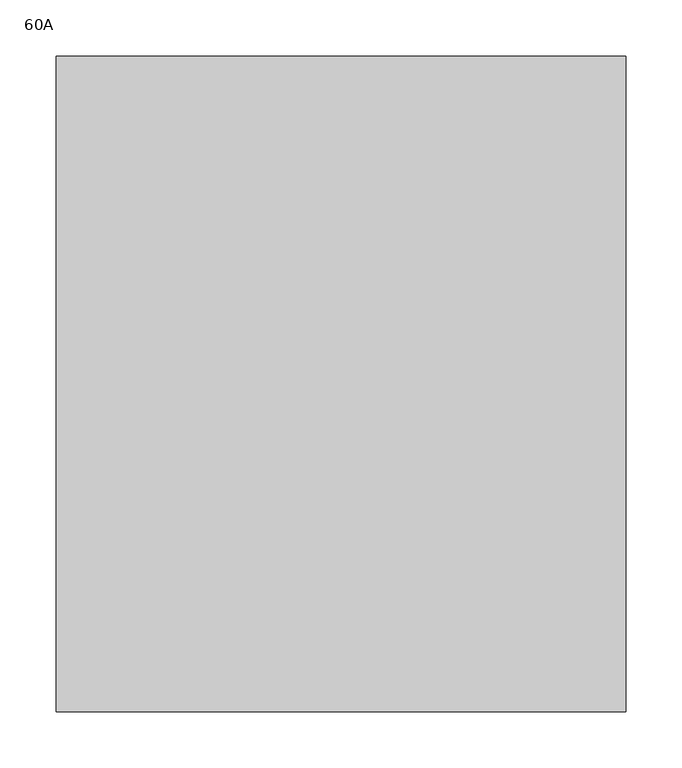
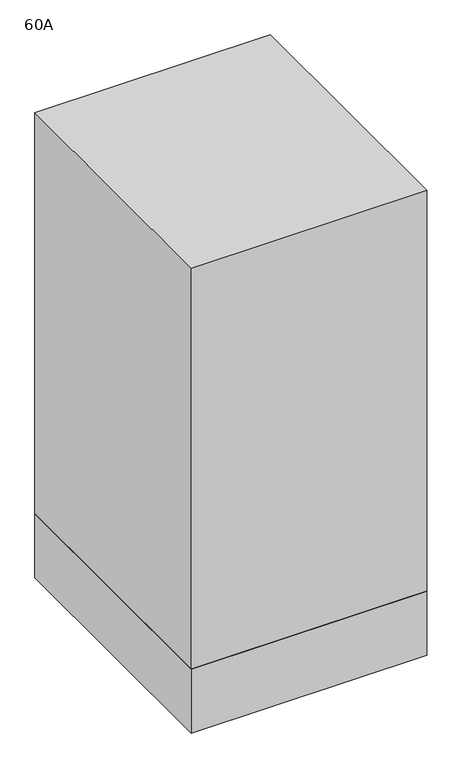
"""IFC4 building model written with IfcOpenShell, lengths in millimetres: proxy geometry, OMAHA - Single Phase Panel - 240V MCB - Surface : 60A."""

from ifc_helpers import new_model, si_unit, frame, origin, origin_with_axes, place, context, project, spatial, polyline, outline, extrude, source, transform, mapped, element, save


def proxy_60a_e9dd2509(model_context):
    return source(origin(), model_context, "Body", "SweptSolid", [
        extrude(outline(polyline([(254.0, 0.0), (254.0, -584.2), (-254.0, -584.2), (-254.0, 0.0), (254.0, 0.0)])), origin_with_axes(), (0.0, 0.0, 1.0), 146.05),
        extrude(outline(polyline([(-254.0, -584.2), (-254.0, 0.0), (254.0, 0.0), (254.0, -584.2), (-254.0, -584.2)])), frame((0.0, 0.0, 146.05), z_axis=(0.0, 0.0, 1.0), x_axis=(1.0, 0.0, 0.0)), (0.0, 0.0, 1.0), 914.4),
    ])


if __name__ == "__main__":
    model = new_model("IFC4")
    model_context = context("Model", 3, world=origin())
    ifc_project = project(units=[si_unit("LENGTHUNIT", "METRE", prefix="MILLI")], contexts=[model_context])
    site = spatial("IfcSite", under=ifc_project)
    building = spatial("IfcBuilding", under=site)
    placement = place(None, origin())
    proxy_60a_shape = proxy_60a_e9dd2509(model_context)
    element("IfcBuildingElementProxy", 1, Name="OMAHA - Single Phase Panel - 240V MCB - Surface : 60A", ObjectType="OMAHA - Single Phase Panel - 240V MCB - Surface : 60A", at=placement, inside=building, context=model_context, shape_type="MappedRepresentation", body=[
        mapped(proxy_60a_shape, transform((0.0, 0.0, 0.0), x_axis=(1.0, 0.0, 0.0), y_axis=(0.0, 1.0, 0.0), z_axis=(0.0, 0.0, 1.0))),
    ])
    save(model, "model.ifc")
